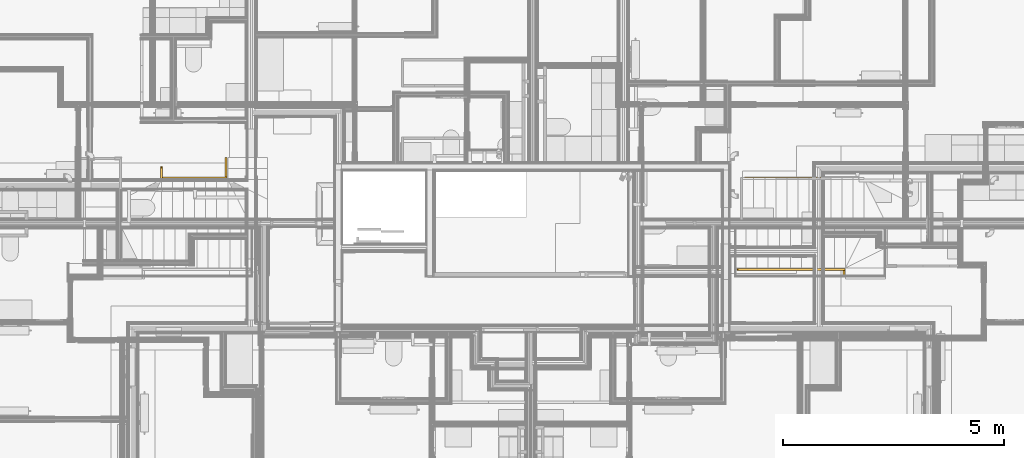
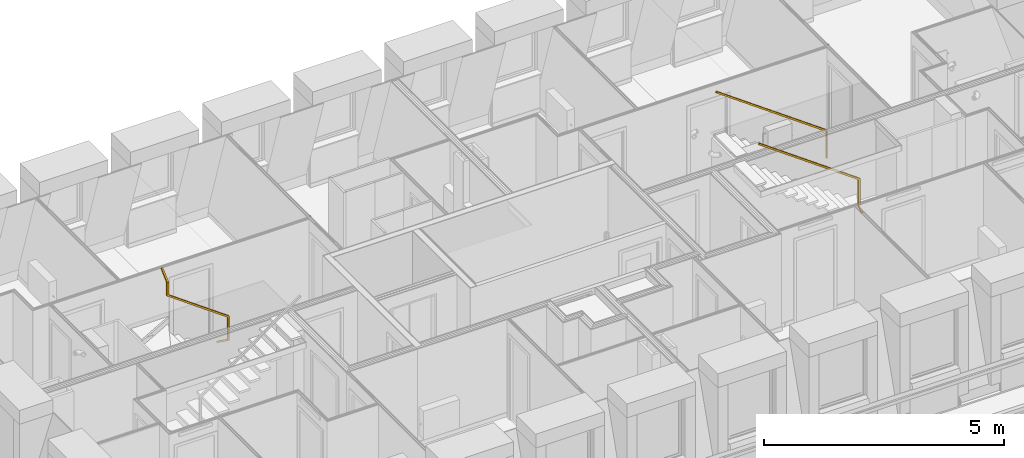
# One storey, part 142 of 169: 3 railings.
"""IFC2X3 building model written with IfcOpenShell, lengths in metres."""

import ifcopenshell
import ifcopenshell.guid

model = None  # the IFC model being written
_history = None  # IfcOwnerHistory: only IFC2X3 demands one
_inside = {}  # id of a spatial element -> (the spatial element, [elements in it])
_under = {}  # id of a project, library or spatial element -> (it, [spatial elements below it])
_declared = {}  # id of a project -> (the project, [libraries it declares])
_typed = {}  # id of a type object -> (the type object, [elements of that type])
_made_of = {}  # id of a material, layer set ... -> (it, [elements and type objects made of it])


def new_model(schema):
    """Start an empty IFC model of exactly this schema.

    Asked for "IFC4X3", IfcOpenShell would pick the latest addendum, in which some entities
    have other attributes; the version numbers below select the first issue.
    IFC2X3 requires an IfcOwnerHistory on every rooted entity: one is made here for all.
    """
    global model, _history
    if schema == "IFC4X3":
        model = ifcopenshell.file(schema_version=(4, 3, 0, 0))
    else:
        model = ifcopenshell.file(schema=schema)
    _inside.clear()
    _under.clear()
    _declared.clear()
    _typed.clear()
    _made_of.clear()
    _history = None
    if model.schema == "IFC2X3":
        org = make("IfcOrganization", Name="unknown")
        user = make(
            "IfcPersonAndOrganization",
            ThePerson=make("IfcPerson", FamilyName="unknown"),
            TheOrganization=org,
        )
        app = make(
            "IfcApplication",
            ApplicationDeveloper=org,
            Version="unknown",
            ApplicationFullName="unknown",
            ApplicationIdentifier="unknown",
        )
        _history = make(
            "IfcOwnerHistory",
            OwningUser=user,
            OwningApplication=app,
            ChangeAction="ADDED",
            CreationDate=0,
        )
    return model


def make(cls, **values):
    """One entity of the class cls with the attributes given. An attribute that is None is left unset."""
    return model.create_entity(
        cls, **{name: value for name, value in values.items() if value is not None}
    )


def entity(cls, *values):
    """Any entity or typed value of the class cls, its attributes in the order of the schema. None: left unset."""
    e = model.create_entity(cls)
    for i, value in enumerate(values):
        if value is not None:
            e[i] = value
    return e


def rooted(cls, **values):
    """An entity with a GlobalId (a new one), such as an element, a storey or a relation."""
    return make(cls, GlobalId=ifcopenshell.guid.new(), OwnerHistory=_history, **values)


def si_unit(unit_type, name, prefix=None):
    """IfcSIUnit, for example si_unit("LENGTHUNIT", "METRE", prefix="MILLI")."""
    return make("IfcSIUnit", UnitType=unit_type, Prefix=prefix, Name=name)


def converted_unit(unit_type, name, factor, base, dimensions=None, offset=None):
    """IfcConversionBasedUnit, such as the inch: factor (a typed value) times the base unit."""
    return make(
        "IfcConversionBasedUnit"
        if offset is None
        else "IfcConversionBasedUnitWithOffset",
        ConversionOffset=offset,
        Dimensions=None
        if dimensions is None
        else entity("IfcDimensionalExponents", *dimensions),
        UnitType=unit_type,
        Name=name,
        ConversionFactor=make(
            "IfcMeasureWithUnit", ValueComponent=factor, UnitComponent=base
        ),
    )


def derived_unit(unit_type, elements):
    """IfcDerivedUnit: a product of units, each with its exponent."""
    return make(
        "IfcDerivedUnit",
        Elements=[
            make("IfcDerivedUnitElement", Unit=unit, Exponent=power)
            for unit, power in elements
        ],
        UnitType=unit_type,
    )


def money_unit(currency):
    """IfcMonetaryUnit."""
    return make("IfcMonetaryUnit", Currency=currency)


def assignment(units):
    """IfcUnitAssignment: the units of a project."""
    return None if units is None else make("IfcUnitAssignment", Units=units)


def point(xyz):
    """IfcCartesianPoint."""
    return None if xyz is None else make("IfcCartesianPoint", Coordinates=xyz)


def direction(xyz):
    """IfcDirection."""
    return None if xyz is None else make("IfcDirection", DirectionRatios=xyz)


def frame(location, z_axis=None, x_axis=None):
    """IfcAxis2Placement3D, a coordinate frame: its origin and axes. An axis left out is left unset."""
    return make(
        "IfcAxis2Placement3D",
        Location=point(location),
        Axis=direction(z_axis),
        RefDirection=direction(x_axis),
    )


def origin_with_axes():
    """The frame at (0, 0, 0) with the z axis (0, 0, 1) and the x axis (1, 0, 0) written out."""
    return frame((0.0, 0.0, 0.0), z_axis=(0.0, 0.0, 1.0), x_axis=(1.0, 0.0, 0.0))


def place(relative_to, where):
    """IfcLocalPlacement: puts the frame where relative to a parent placement (None: the world)."""
    return make(
        "IfcLocalPlacement", PlacementRelTo=relative_to, RelativePlacement=where
    )


def context(
    kind, dimensions, precision=None, world=None, true_north=None, identifier=None
):
    """IfcGeometricRepresentationContext, for example the 3D "Model" context."""
    return make(
        "IfcGeometricRepresentationContext",
        ContextIdentifier=identifier,
        ContextType=kind,
        CoordinateSpaceDimension=dimensions,
        Precision=precision,
        WorldCoordinateSystem=world,
        TrueNorth=true_north,
    )


def subcontext(parent, identifier, kind, view, scale=None):
    """IfcGeometricRepresentationSubContext, for example "Body" below "Model"."""
    return make(
        "IfcGeometricRepresentationSubContext",
        ContextIdentifier=identifier,
        ContextType=kind,
        ParentContext=parent,
        TargetScale=scale,
        TargetView=view,
    )


def project(units=None, contexts=None):
    """IfcProject with its units and contexts."""
    return rooted(
        "IfcProject",
        Name="project",
        RepresentationContexts=contexts,
        UnitsInContext=assignment(units),
    )


def spatial(cls, under=None, at=None, **own):
    """A site, building, storey or space (cls), placed at a placement, below another one or the project."""
    s = rooted(cls, ObjectPlacement=at, **own)
    if under is not None:
        _under.setdefault(under.id(), (under, []))[1].append(s)
    return s


def faces_of(points, faces, orient=None, outer=None):
    """IfcFace entities. A face is a list of loops; a loop is a list of indices into points, from 0.

    orient and outer hold one flag for each loop. By default every Orientation is true, the
    first loop of a face is its IfcFaceOuterBound and the others are IfcFaceBound.
    """
    made = []
    for i, loops in enumerate(faces):
        bounds = []
        for j, loop in enumerate(loops):
            is_outer = j == 0 if outer is None else outer[i][j]
            bounds.append(
                make(
                    "IfcFaceOuterBound" if is_outer else "IfcFaceBound",
                    Bound=make("IfcPolyLoop", Polygon=[points[k] for k in loop]),
                    Orientation=True if orient is None else orient[i][j],
                )
            )
        made.append(make("IfcFace", Bounds=bounds))
    return made


def faceted_brep(points, faces, orient=None, outer=None, voids=None):
    """IfcFacetedBrep: a solid bounded by flat faces; with voids (closed shells), ...WithVoids."""
    shared = [point(p) for p in points]
    hull = make("IfcClosedShell", CfsFaces=faces_of(shared, faces, orient, outer))
    if voids is None:
        return make("IfcFacetedBrep", Outer=hull)
    return make(
        "IfcFacetedBrepWithVoids",
        Outer=hull,
        Voids=[
            make(cls, CfsFaces=faces_of(shared, fs, o, b)) for cls, fs, o, b in voids
        ],
    )


def shape(context_of_items, identifier, shape_type, items):
    """IfcShapeRepresentation: the items that make up one representation, for example the "Body"."""
    return make(
        "IfcShapeRepresentation",
        ContextOfItems=context_of_items,
        RepresentationIdentifier=identifier,
        RepresentationType=shape_type,
        Items=items,
    )


def material(Name=None, Category=None):
    """IfcMaterial."""
    return make("IfcMaterial", Name=Name, Category=Category)


def made_of(thing, what):
    """Note that an element or type object is made of a material, layer set ...; save() writes the relation."""
    if what is not None:
        _made_of.setdefault(what.id(), (what, []))[1].append(thing)
    return thing


def type_object(cls, material=None, **own):
    """A type object (cls), such as IfcWallType, which elements share."""
    return made_of(rooted(cls, **own), material)


def element(
    cls,
    number,
    at=None,
    inside=None,
    cuts=None,
    type_object=None,
    material=None,
    context=None,
    identifier="Body",
    shape_type=None,
    held_by="IfcProductDefinitionShape",
    body=None,
    shapes=None,
    **own,
):
    """One element of the class cls, such as IfcWall. Its Tag is "e" and its number.

    at: its placement. inside: the storey or other place that contains it. cuts: it is an
    opening in that element (IfcRelVoidsElement). A single representation is given by context,
    identifier, shape_type and body (its items); several are given by shapes. held_by: the class
    of the entity that holds the representations. save() writes the other relations.
    """
    e = rooted(cls, Tag="e%d" % number, ObjectPlacement=at, **own)
    if body is not None:
        shapes = [shape(context, identifier, shape_type, body)]
    if shapes is not None:
        e.Representation = make(held_by, Representations=shapes)
    if inside is not None:
        _inside.setdefault(inside.id(), (inside, []))[1].append(e)
    if cuts is not None:
        rooted(
            "IfcRelVoidsElement", RelatingBuildingElement=cuts, RelatedOpeningElement=e
        )
    if type_object is not None:
        _typed.setdefault(type_object.id(), (type_object, []))[1].append(e)
    return made_of(e, material)


def aggregate(whole, parts):
    """IfcRelAggregates: a whole, such as a stair, and the parts it consists of."""
    return rooted("IfcRelAggregates", RelatingObject=whole, RelatedObjects=parts)


def save(model, path):
    """Write the relations noted so far, then the file.

    IfcRelAggregates (storeys below a building ...), IfcRelContainedInSpatialStructure (elements
    in a storey), IfcRelDefinesByType, IfcRelAssociatesMaterial and IfcRelDeclares: one each for
    every whole, place, type object, material and project.
    """
    for whole, parts in _under.values():
        aggregate(whole, parts)
    for where, things in _inside.values():
        rooted(
            "IfcRelContainedInSpatialStructure",
            RelatedElements=things,
            RelatingStructure=where,
        )
    for kind, things in _typed.values():
        rooted("IfcRelDefinesByType", RelatedObjects=things, RelatingType=kind)
    for what, things in _made_of.values():
        rooted("IfcRelAssociatesMaterial", RelatedObjects=things, RelatingMaterial=what)
    for by, libraries in _declared.values():
        rooted("IfcRelDeclares", RelatingContext=by, RelatedDefinitions=libraries)
    model.write(path)


model = new_model("IFC2X3")

# Units and contexts
model_context = context("Model", 3, precision=1e-05, world=origin_with_axes(), true_north=direction((0.0, 1.0)))
body_context = subcontext(model_context, "Body", "Model", "MODEL_VIEW", scale=1.0)
ifc_project = project(units=[si_unit("LENGTHUNIT", "METRE"), si_unit("AREAUNIT", "SQUARE_METRE"), si_unit("VOLUMEUNIT", "CUBIC_METRE"), si_unit("ABSORBEDDOSEUNIT", "GRAY"), si_unit("AMOUNTOFSUBSTANCEUNIT", "MOLE"), si_unit("DOSEEQUIVALENTUNIT", "SIEVERT"), si_unit("ELECTRICCAPACITANCEUNIT", "FARAD"), si_unit("ELECTRICCHARGEUNIT", "COULOMB"), si_unit("ELECTRICCONDUCTANCEUNIT", "SIEMENS"), si_unit("ELECTRICCURRENTUNIT", "AMPERE"), si_unit("ELECTRICRESISTANCEUNIT", "OHM"), si_unit("ELECTRICVOLTAGEUNIT", "VOLT"), si_unit("ENERGYUNIT", "JOULE"), si_unit("FORCEUNIT", "NEWTON"), si_unit("FREQUENCYUNIT", "HERTZ"), si_unit("ILLUMINANCEUNIT", "LUX"), si_unit("INDUCTANCEUNIT", "HENRY"), si_unit("LUMINOUSFLUXUNIT", "LUMEN"), si_unit("LUMINOUSINTENSITYUNIT", "CANDELA"), si_unit("MAGNETICFLUXDENSITYUNIT", "TESLA"), si_unit("MAGNETICFLUXUNIT", "WEBER"), si_unit("MASSUNIT", "GRAM"), converted_unit("PLANEANGLEUNIT", "degree", entity("IfcReal", 0.0174532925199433), si_unit("PLANEANGLEUNIT", "RADIAN"), dimensions=[0, 0, 0, 0, 0, 0, 0]), si_unit("POWERUNIT", "WATT"), si_unit("PRESSUREUNIT", "PASCAL"), si_unit("RADIOACTIVITYUNIT", "BECQUEREL"), si_unit("SOLIDANGLEUNIT", "STERADIAN"), si_unit("THERMODYNAMICTEMPERATUREUNIT", "KELVIN"), si_unit("TIMEUNIT", "SECOND"), derived_unit("ACCELERATIONUNIT", [(si_unit("LENGTHUNIT", "METRE"), 1), (si_unit("TIMEUNIT", "SECOND"), -2)]), derived_unit("ANGULARVELOCITYUNIT", [(converted_unit("PLANEANGLEUNIT", "degree", entity("IfcReal", 0.0174532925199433), si_unit("PLANEANGLEUNIT", "RADIAN"), dimensions=[0, 0, 0, 0, 0, 0, 0]), 1), (si_unit("TIMEUNIT", "SECOND"), -1)]), derived_unit("CURVATUREUNIT", [(converted_unit("PLANEANGLEUNIT", "degree", entity("IfcReal", 0.0174532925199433), si_unit("PLANEANGLEUNIT", "RADIAN"), dimensions=[0, 0, 0, 0, 0, 0, 0]), 1), (si_unit("LENGTHUNIT", "METRE"), -1)]), derived_unit("DYNAMICVISCOSITYUNIT", [(si_unit("PRESSUREUNIT", "PASCAL"), 1), (si_unit("TIMEUNIT", "SECOND"), 1)]), derived_unit("HEATFLUXDENSITYUNIT", [(si_unit("POWERUNIT", "WATT"), 1), (si_unit("LENGTHUNIT", "METRE"), -2)]), derived_unit("HEATINGVALUEUNIT", [(si_unit("ENERGYUNIT", "JOULE"), 1), (si_unit("MASSUNIT", "GRAM"), -1)]), derived_unit("INTEGERCOUNTRATEUNIT", [(si_unit("TIMEUNIT", "SECOND"), -1)]), derived_unit("IONCONCENTRATIONUNIT", [(si_unit("MASSUNIT", "GRAM"), 1), (si_unit("VOLUMEUNIT", "CUBIC_METRE"), -1)]), derived_unit("ISOTHERMALMOISTURECAPACITYUNIT", [(si_unit("VOLUMEUNIT", "CUBIC_METRE"), 1), (si_unit("MASSUNIT", "GRAM"), -1)]), derived_unit("KINEMATICVISCOSITYUNIT", [(si_unit("AREAUNIT", "SQUARE_METRE"), 1), (si_unit("TIMEUNIT", "SECOND"), -1)]), derived_unit("LINEARFORCEUNIT", [(si_unit("FORCEUNIT", "NEWTON"), 1), (si_unit("LENGTHUNIT", "METRE"), -1)]), derived_unit("LINEARMOMENTUNIT", [(si_unit("FORCEUNIT", "NEWTON"), 1), (si_unit("LENGTHUNIT", "METRE"), -1)]), derived_unit("LINEARSTIFFNESSUNIT", [(si_unit("FORCEUNIT", "NEWTON"), 1), (si_unit("LENGTHUNIT", "METRE"), -1)]), derived_unit("LINEARVELOCITYUNIT", [(si_unit("LENGTHUNIT", "METRE"), 1), (si_unit("TIMEUNIT", "SECOND"), -1)]), derived_unit("LUMINOUSINTENSITYDISTRIBUTIONUNIT", [(si_unit("LUMINOUSINTENSITYUNIT", "CANDELA"), 1), (si_unit("LUMINOUSFLUXUNIT", "LUMEN"), -1)]), derived_unit("MASSDENSITYUNIT", [(si_unit("MASSUNIT", "GRAM"), 1), (si_unit("VOLUMEUNIT", "CUBIC_METRE"), -1)]), derived_unit("MASSFLOWRATEUNIT", [(si_unit("MASSUNIT", "GRAM"), 1), (si_unit("TIMEUNIT", "SECOND"), -1)]), derived_unit("MASSPERLENGTHUNIT", [(si_unit("MASSUNIT", "GRAM"), 1), (si_unit("LENGTHUNIT", "METRE"), -1)]), derived_unit("MODULUSOFELASTICITYUNIT", [(si_unit("FORCEUNIT", "NEWTON"), 1), (si_unit("AREAUNIT", "SQUARE_METRE"), -1)]), derived_unit("MODULUSOFLINEARSUBGRADEREACTIONUNIT", [(si_unit("FORCEUNIT", "NEWTON"), 1), (si_unit("LENGTHUNIT", "METRE"), -2)]), derived_unit("MODULUSOFROTATIONALSUBGRADEREACTIONUNIT", [(si_unit("FORCEUNIT", "NEWTON"), 1), (si_unit("LENGTHUNIT", "METRE"), 1)]), derived_unit("MODULUSOFSUBGRADEREACTIONUNIT", [(si_unit("FORCEUNIT", "NEWTON"), 1), (si_unit("VOLUMEUNIT", "CUBIC_METRE"), -1)]), derived_unit("MOISTUREDIFFUSIVITYUNIT", [(si_unit("VOLUMEUNIT", "CUBIC_METRE"), 1), (si_unit("TIMEUNIT", "SECOND"), -1)]), derived_unit("MOLECULARWEIGHTUNIT", [(si_unit("MASSUNIT", "GRAM"), 1), (si_unit("AMOUNTOFSUBSTANCEUNIT", "MOLE"), -1)]), derived_unit("PLANARFORCEUNIT", [(si_unit("FORCEUNIT", "NEWTON"), 1), (si_unit("LENGTHUNIT", "METRE"), -2)]), derived_unit("ROTATIONALFREQUENCYUNIT", [(si_unit("TIMEUNIT", "SECOND"), -1)]), derived_unit("ROTATIONALMASSUNIT", [(si_unit("MASSUNIT", "GRAM"), 1), (si_unit("LENGTHUNIT", "METRE"), 2)]), derived_unit("ROTATIONALSTIFFNESSUNIT", [(si_unit("FORCEUNIT", "NEWTON"), 1), (si_unit("LENGTHUNIT", "METRE"), 1), (converted_unit("PLANEANGLEUNIT", "degree", entity("IfcReal", 0.0174532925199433), si_unit("PLANEANGLEUNIT", "RADIAN"), dimensions=[0, 0, 0, 0, 0, 0, 0]), -1)]), derived_unit("SECTIONAREAINTEGRALUNIT", [(si_unit("LENGTHUNIT", "METRE"), 5)]), derived_unit("SECTIONMODULUSUNIT", [(si_unit("LENGTHUNIT", "METRE"), 3)]), derived_unit("SHEARMODULUSUNIT", [(si_unit("FORCEUNIT", "NEWTON"), 1), (si_unit("AREAUNIT", "SQUARE_METRE"), -1)]), derived_unit("SOUNDPOWERUNIT", [(si_unit("ENERGYUNIT", "JOULE"), 1), (si_unit("TIMEUNIT", "SECOND"), -1)]), derived_unit("SPECIFICHEATCAPACITYUNIT", [(si_unit("FORCEUNIT", "NEWTON"), 1), (si_unit("MASSUNIT", "GRAM"), -1), (si_unit("THERMODYNAMICTEMPERATUREUNIT", "KELVIN"), -1)]), derived_unit("TEMPERATUREGRADIENTUNIT", [(si_unit("THERMODYNAMICTEMPERATUREUNIT", "KELVIN"), 1), (si_unit("LENGTHUNIT", "METRE"), -1)]), derived_unit("THERMALADMITTANCEUNIT", [(si_unit("POWERUNIT", "WATT"), 1), (si_unit("AREAUNIT", "SQUARE_METRE"), -1), (si_unit("THERMODYNAMICTEMPERATUREUNIT", "KELVIN"), -1)]), derived_unit("THERMALCONDUCTANCEUNIT", [(si_unit("POWERUNIT", "WATT"), 1), (si_unit("LENGTHUNIT", "METRE"), -1), (si_unit("THERMODYNAMICTEMPERATUREUNIT", "KELVIN"), -1)]), derived_unit("THERMALEXPANSIONCOEFFICIENTUNIT", [(si_unit("THERMODYNAMICTEMPERATUREUNIT", "KELVIN"), -1)]), derived_unit("THERMALRESISTANCEUNIT", [(si_unit("AREAUNIT", "SQUARE_METRE"), 1), (si_unit("POWERUNIT", "WATT"), -1)]), derived_unit("THERMALTRANSMITTANCEUNIT", [(si_unit("POWERUNIT", "WATT"), 1), (si_unit("AREAUNIT", "SQUARE_METRE"), -1), (si_unit("THERMODYNAMICTEMPERATUREUNIT", "KELVIN"), -1)]), derived_unit("TORQUEUNIT", [(si_unit("FORCEUNIT", "NEWTON"), 1), (si_unit("LENGTHUNIT", "METRE"), 1)]), derived_unit("VAPORPERMEABILITYUNIT", [(si_unit("MASSUNIT", "GRAM"), 1), (si_unit("TIMEUNIT", "SECOND"), -1)]), derived_unit("VOLUMETRICFLOWRATEUNIT", [(si_unit("VOLUMEUNIT", "CUBIC_METRE"), 1), (si_unit("TIMEUNIT", "SECOND"), -1)]), derived_unit("WARPINGCONSTANTUNIT", [(si_unit("LENGTHUNIT", "METRE"), 6)]), derived_unit("WARPINGMOMENTUNIT", [(si_unit("FORCEUNIT", "NEWTON"), 1), (si_unit("LENGTHUNIT", "METRE"), 2)]), money_unit("GBP")], contexts=[model_context])

# Site, building, storey
site_placement = place(None, origin_with_axes())
site = spatial("IfcSite", under=ifc_project, at=site_placement, Name="Site", CompositionType="ELEMENT")
building_placement = place(site_placement, origin_with_axes())
building = spatial("IfcBuilding", under=site, at=building_placement, Name="Building01", CompositionType="ELEMENT")
storey_placement = place(building_placement, frame((0.0, 0.0, 5.15), z_axis=(0.0, 0.0, 1.0), x_axis=(1.0, 0.0, 0.0)))
storey = spatial("IfcBuildingStorey", under=building, at=storey_placement, Name="1F", CompositionType="ELEMENT", Elevation=5.15)

# Railings
ifc_material = material(Name="A_BSUK_Steel_Miscellaneous")
railing_type = type_object("IfcRailingType", Name="S-Handrail-900mm", PredefinedType="NOTDEFINED")
railing_1_placement = place(storey_placement, frame((18.354963, 8.387965, 12.527813), z_axis=(0.0, 0.0, 1.0), x_axis=(1.0, 0.0, 0.0)))
element("IfcRailing", 1, at=railing_1_placement, inside=storey, type_object=railing_type, material=ifc_material, Name="S-Handrail-900mm", ObjectType="S-Handrail-900mm", PredefinedType="HANDRAIL", context=body_context, shape_type="Brep", body=[
    faceted_brep([(-0.023372, 0.08, 0.867539), (0.0, 0.08, 0.9), (0.0, 0.12, 0.9), (-0.023372, 0.12, 0.867539), (-0.021035, 0.084, 0.870785), (-0.021035, 0.116, 0.870785), (-0.002337, 0.116, 0.896754), (-0.002337, 0.084, 0.896754), (2.626962, 0.12, -1.040702), (2.626962, 0.08, -1.040702), (2.666962, 0.08, -1.020213), (2.666962, 0.12, -1.020213), (2.630962, 0.116, -1.038653), (2.630962, 0.084, -1.038653), (2.662962, 0.084, -1.022262), (2.662962, 0.116, -1.022262)], [[[0, 1, 2, 3], [4, 5, 6, 7]], [[8, 9, 0, 3]], [[9, 10, 1, 0]], [[10, 11, 2, 1]], [[11, 8, 3, 2]], [[12, 5, 4, 13]], [[13, 4, 7, 14]], [[14, 7, 6, 15]], [[15, 6, 5, 12]], [[8, 11, 10, 9], [12, 13, 14, 15]]]),
    faceted_brep([(2.666962, 0.08, -1.020213), (2.626962, 0.08, -1.040702), (2.626962, 0.08, -1.724702), (2.666962, 0.08, -1.724702), (2.666962, 0.12, -1.704213), (2.666962, 0.12, -1.020213), (2.626962, 0.12, -1.704213), (2.626962, 0.12, -1.040702), (2.630962, 0.084, -1.722653), (2.630962, 0.084, -1.038653), (2.662962, 0.084, -1.022262), (2.662962, 0.084, -1.722653), (2.662962, 0.116, -1.022262), (2.662962, 0.116, -1.706262), (2.630962, 0.116, -1.038653), (2.630962, 0.116, -1.706262)], [[[0, 1, 2, 3]], [[3, 4, 5, 0]], [[4, 6, 7, 5]], [[6, 2, 1, 7]], [[8, 9, 10, 11]], [[11, 10, 12, 13]], [[13, 12, 14, 15]], [[15, 14, 9, 8]], [[0, 5, 7, 1], [10, 9, 14, 12]], [[2, 6, 4, 3], [8, 11, 13, 15]]]),
    faceted_brep([(2.666962, 0.08, -1.724702), (2.666962, 0.12, -1.704213), (2.626962, 0.12, -1.704213), (2.626962, 0.08, -1.724702), (2.662962, 0.084, -1.722653), (2.630962, 0.084, -1.722653), (2.630962, 0.116, -1.706262), (2.662962, 0.116, -1.706262), (2.626962, 0.096628, -1.736674), (2.666962, 0.096628, -1.736674), (2.662962, 0.098965, -1.733428), (2.662962, 0.117663, -1.707459), (2.630962, 0.117663, -1.707459), (2.630962, 0.098965, -1.733428)], [[[0, 1, 2, 3], [4, 5, 6, 7]], [[8, 2, 1, 9], [10, 11, 12, 13]], [[0, 3, 8, 9]], [[1, 0, 9]], [[3, 2, 8]], [[4, 10, 13, 5]], [[7, 11, 10, 4]], [[6, 12, 11, 7]], [[5, 13, 12, 6]]]),
])
railing_2_placement = place(storey_placement, frame((20.680471, 6.261865, 10.01), z_axis=(0.0, 0.0, 1.0), x_axis=(1.0, 0.0, 0.0)))
element("IfcRailing", 2, at=railing_2_placement, inside=storey, type_object=railing_type, material=ifc_material, Name="S-Handrail-900mm", ObjectType="S-Handrail-900mm", PredefinedType="HANDRAIL", context=body_context, shape_type="Brep", body=[
    faceted_brep([(-0.08, 0.023372, 0.867539), (-0.08, 0.0, 0.9), (-0.12, 0.0, 0.9), (-0.12, 0.023372, 0.867539), (-0.084, 0.021035, 0.870785), (-0.116, 0.021035, 0.870785), (-0.116, 0.002337, 0.896754), (-0.084, 0.002337, 0.896754), (-0.12, 0.17, 0.973111), (-0.08, 0.17, 0.973111), (-0.08, 0.13, 0.9936), (-0.12, 0.13, 0.9936), (-0.116, 0.166, 0.97516), (-0.084, 0.166, 0.97516), (-0.084, 0.134, 0.991551), (-0.116, 0.134, 0.991551)], [[[0, 1, 2, 3], [4, 5, 6, 7]], [[8, 9, 0, 3]], [[9, 10, 1, 0]], [[10, 11, 2, 1]], [[11, 8, 3, 2]], [[12, 5, 4, 13]], [[13, 4, 7, 14]], [[14, 7, 6, 15]], [[15, 6, 5, 12]], [[8, 11, 10, 9], [12, 13, 14, 15]]]),
    faceted_brep([(-0.12, 0.17, 1.657111), (-0.08, 0.17, 1.6776), (-0.08, 0.17, 0.973111), (-0.12, 0.17, 0.973111), (-0.08, 0.13, 0.9936), (-0.08, 0.13, 1.6776), (-0.12, 0.13, 1.657111), (-0.12, 0.13, 0.9936), (-0.116, 0.166, 1.65916), (-0.116, 0.166, 0.97516), (-0.084, 0.166, 0.97516), (-0.084, 0.166, 1.675551), (-0.084, 0.134, 0.991551), (-0.084, 0.134, 1.675551), (-0.116, 0.134, 0.991551), (-0.116, 0.134, 1.65916)], [[[0, 1, 2, 3]], [[4, 2, 1, 5]], [[5, 6, 7, 4]], [[6, 0, 3, 7]], [[8, 9, 10, 11]], [[11, 10, 12, 13]], [[13, 12, 14, 15]], [[15, 14, 9, 8]], [[2, 4, 7, 3], [10, 9, 14, 12]], [[0, 6, 5, 1], [8, 11, 13, 15]]]),
    faceted_brep([(-2.273372, 0.13, 3.207539), (-2.25, 0.13, 3.24), (-2.25, 0.17, 3.24), (-2.273372, 0.17, 3.207539), (-2.271035, 0.166, 3.210785), (-2.252337, 0.166, 3.236754), (-2.252337, 0.134, 3.236754), (-2.271035, 0.134, 3.210785), (-0.12, 0.17, 1.657111), (-0.12, 0.13, 1.657111), (-0.08, 0.17, 1.6776), (-0.08, 0.13, 1.6776), (-0.116, 0.166, 1.65916), (-0.116, 0.134, 1.65916), (-0.084, 0.166, 1.675551), (-0.084, 0.134, 1.675551)], [[[0, 1, 2, 3], [4, 5, 6, 7]], [[8, 9, 0, 3]], [[10, 8, 3, 2]], [[11, 10, 2, 1]], [[9, 11, 1, 0]], [[12, 4, 7, 13]], [[14, 5, 4, 12]], [[15, 6, 5, 14]], [[13, 7, 6, 15]], [[8, 10, 11, 9], [12, 13, 15, 14]]]),
    faceted_brep([(-2.273372, 0.17, 3.207539), (-2.25, 0.17, 3.24), (-2.25, 0.13, 3.24), (-2.273372, 0.13, 3.207539), (-2.271035, 0.166, 3.210785), (-2.271035, 0.134, 3.210785), (-2.252337, 0.134, 3.236754), (-2.252337, 0.166, 3.236754), (-2.523372, 0.13, 3.387539), (-2.5, 0.13, 3.42), (-2.5, 0.17, 3.42), (-2.523372, 0.17, 3.387539), (-2.521035, 0.166, 3.390785), (-2.502337, 0.166, 3.416754), (-2.502337, 0.134, 3.416754), (-2.521035, 0.134, 3.390785)], [[[0, 1, 2, 3], [4, 5, 6, 7]], [[8, 9, 10, 11], [12, 13, 14, 15]], [[11, 0, 3, 8]], [[10, 1, 0, 11]], [[9, 2, 1, 10]], [[8, 3, 2, 9]], [[15, 5, 4, 12]], [[12, 4, 7, 13]], [[13, 7, 6, 14]], [[14, 6, 5, 15]]]),
])
railing_3_placement = place(storey_placement, frame((5.04001, 8.71449, 12.527524), z_axis=(0.0, 0.0, 1.0), x_axis=(1.0, 0.0, 0.0)))
element("IfcRailing", 3, at=railing_3_placement, inside=storey, type_object=railing_type, material=ifc_material, Name="S-Handrail-900mm", ObjectType="S-Handrail-900mm", PredefinedType="HANDRAIL", context=body_context, shape_type="Brep", body=[
    faceted_brep([(0.080004, 0.027012, 0.870508), (0.08, -1.1e-05, 0.9), (0.12, -1.7e-05, 0.9), (0.120004, 0.027006, 0.870508), (0.084003, 0.024309, 0.873458), (0.116003, 0.024304, 0.873458), (0.116, 0.002686, 0.897051), (0.084, 0.00269, 0.897051), (0.119971, -0.206553, 0.6565), (0.079971, -0.206548, 0.6565), (0.079965, -0.246548, 0.674101), (0.119965, -0.246553, 0.674101), (0.11597, -0.210553, 0.65826), (0.08397, -0.210548, 0.65826), (0.083965, -0.242548, 0.672341), (0.115965, -0.242553, 0.672341)], [[[0, 1, 2, 3], [4, 5, 6, 7]], [[8, 9, 0, 3]], [[9, 10, 1, 0]], [[10, 11, 2, 1]], [[11, 8, 3, 2]], [[12, 5, 4, 13]], [[13, 4, 7, 14]], [[14, 7, 6, 15]], [[15, 6, 5, 12]], [[8, 11, 10, 9], [12, 13, 14, 15]]]),
    faceted_brep([(0.119971, -0.246548, 0.45781), (0.119965, -0.206548, 0.457808), (0.119965, -0.206548, 0.656497), (0.119971, -0.246548, 0.674098), (0.079965, -0.206553, 0.443245), (0.079965, -0.206553, 0.656502), (0.079971, -0.246553, 0.443247), (0.079971, -0.246553, 0.674103), (0.11597, -0.242548, 0.456353), (0.11597, -0.242548, 0.672339), (0.115965, -0.210548, 0.658258), (0.115965, -0.210548, 0.456352), (0.083965, -0.210553, 0.658262), (0.083965, -0.210553, 0.444701), (0.08397, -0.242553, 0.672343), (0.08397, -0.242553, 0.444703)], [[[0, 1, 2, 3]], [[1, 4, 5, 2]], [[4, 6, 7, 5]], [[6, 0, 3, 7]], [[8, 9, 10, 11]], [[11, 10, 12, 13]], [[13, 12, 14, 15]], [[15, 14, 9, 8]], [[2, 5, 7, 3], [10, 9, 14, 12]], [[0, 6, 4, 1], [8, 11, 13, 15]]]),
    faceted_brep([(0.07999, -0.20655, 0.443219), (0.07999, -0.24655, 0.443219), (0.079968, -0.24655, 0.443246), (0.079968, -0.20655, 0.443246), (0.11999, -0.24655, 0.457782), (0.119968, -0.24655, 0.457809), (0.119968, -0.20655, 0.457809), (0.11999, -0.20655, 0.457782), (0.08399, -0.21055, 0.444675), (0.083968, -0.21055, 0.444702), (0.083968, -0.24255, 0.444702), (0.08399, -0.24255, 0.444675), (0.115968, -0.24255, 0.456353), (0.11599, -0.24255, 0.456326), (0.115968, -0.21055, 0.456353), (0.11599, -0.21055, 0.456326)], [[[0, 1, 2, 3]], [[1, 4, 5, 2]], [[6, 5, 4, 7]], [[7, 0, 3, 6]], [[8, 9, 10, 11]], [[11, 10, 12, 13]], [[13, 12, 14, 15]], [[15, 14, 9, 8]], [[2, 5, 6, 3], [10, 9, 14, 12]], [[0, 7, 4, 1], [8, 11, 13, 15]]]),
    faceted_brep([(0.07999, -0.24655, 0.327587), (0.11999, -0.24655, 0.348076), (0.11999, -0.24655, 0.457782), (0.07999, -0.24655, 0.443219), (0.11999, -0.20655, 0.348076), (0.11999, -0.20655, 0.457782), (0.07999, -0.20655, 0.327587), (0.07999, -0.20655, 0.443219), (0.08399, -0.24255, 0.329636), (0.08399, -0.24255, 0.444675), (0.11599, -0.24255, 0.456326), (0.11599, -0.24255, 0.346027), (0.11599, -0.21055, 0.456326), (0.11599, -0.21055, 0.346027), (0.08399, -0.21055, 0.444675), (0.08399, -0.21055, 0.329636)], [[[0, 1, 2, 3]], [[1, 4, 5, 2]], [[4, 6, 7, 5]], [[3, 7, 6, 0]], [[8, 9, 10, 11]], [[11, 10, 12, 13]], [[13, 12, 14, 15]], [[15, 14, 9, 8]], [[2, 5, 7, 3], [10, 9, 14, 12]], [[0, 6, 4, 1], [8, 11, 13, 15]]]),
    faceted_brep([(1.54199, -0.20655, -0.725053), (1.54199, -0.24655, -0.725053), (0.07999, -0.24655, 0.327587), (0.07999, -0.20655, 0.327587), (1.58199, -0.24655, -0.704564), (0.11999, -0.24655, 0.348076), (0.11999, -0.20655, 0.348076), (1.58199, -0.20655, -0.704564), (1.54599, -0.21055, -0.723004), (0.08399, -0.21055, 0.329636), (0.08399, -0.24255, 0.329636), (1.54599, -0.24255, -0.723004), (0.11599, -0.24255, 0.346027), (1.57799, -0.24255, -0.706613), (0.11599, -0.21055, 0.346027), (1.57799, -0.21055, -0.706613)], [[[0, 1, 2, 3]], [[1, 4, 5, 2]], [[6, 5, 4, 7]], [[7, 0, 3, 6]], [[8, 9, 10, 11]], [[11, 10, 12, 13]], [[13, 12, 14, 15]], [[15, 14, 9, 8]], [[2, 5, 6, 3], [10, 9, 14, 12]], [[0, 7, 4, 1], [8, 11, 13, 15]]]),
    faceted_brep([(1.58199, -0.24655, -0.704564), (1.54199, -0.24655, -0.725053), (1.54199, -0.24655, -1.319773), (1.58199, -0.24655, -1.319773), (1.58199, -0.20655, -1.299284), (1.58199, -0.20655, -0.704564), (1.54199, -0.20655, -1.299284), (1.54199, -0.20655, -0.725053), (1.54599, -0.24255, -1.317724), (1.54599, -0.24255, -0.723004), (1.57799, -0.24255, -0.706613), (1.57799, -0.24255, -1.317724), (1.57799, -0.21055, -0.706613), (1.57799, -0.21055, -1.301333), (1.54599, -0.21055, -0.723004), (1.54599, -0.21055, -1.301333)], [[[0, 1, 2, 3]], [[3, 4, 5, 0]], [[4, 6, 7, 5]], [[6, 2, 1, 7]], [[8, 9, 10, 11]], [[11, 10, 12, 13]], [[13, 12, 14, 15]], [[15, 14, 9, 8]], [[0, 5, 7, 1], [10, 9, 14, 12]], [[2, 6, 4, 3], [8, 11, 13, 15]]]),
    faceted_brep([(1.54199, 0.212077, -1.649985), (1.54199, 0.23545, -1.617524), (1.58199, 0.23545, -1.617524), (1.58199, 0.212077, -1.649985), (1.57799, 0.214415, -1.646739), (1.57799, 0.233112, -1.62077), (1.54599, 0.233112, -1.62077), (1.54599, 0.214415, -1.646739), (1.58199, -0.24655, -1.319773), (1.54199, -0.24655, -1.319773), (1.58199, -0.20655, -1.299284), (1.54199, -0.20655, -1.299284), (1.57799, -0.24255, -1.317724), (1.54599, -0.24255, -1.317724), (1.57799, -0.21055, -1.301333), (1.54599, -0.21055, -1.301333)], [[[0, 1, 2, 3], [4, 5, 6, 7]], [[8, 9, 0, 3]], [[10, 8, 3, 2]], [[11, 10, 2, 1]], [[9, 11, 1, 0]], [[12, 4, 7, 13]], [[14, 5, 4, 12]], [[15, 6, 5, 14]], [[13, 7, 6, 15]], [[8, 10, 11, 9], [12, 13, 15, 14]]]),
])

save(model, "model.ifc")
